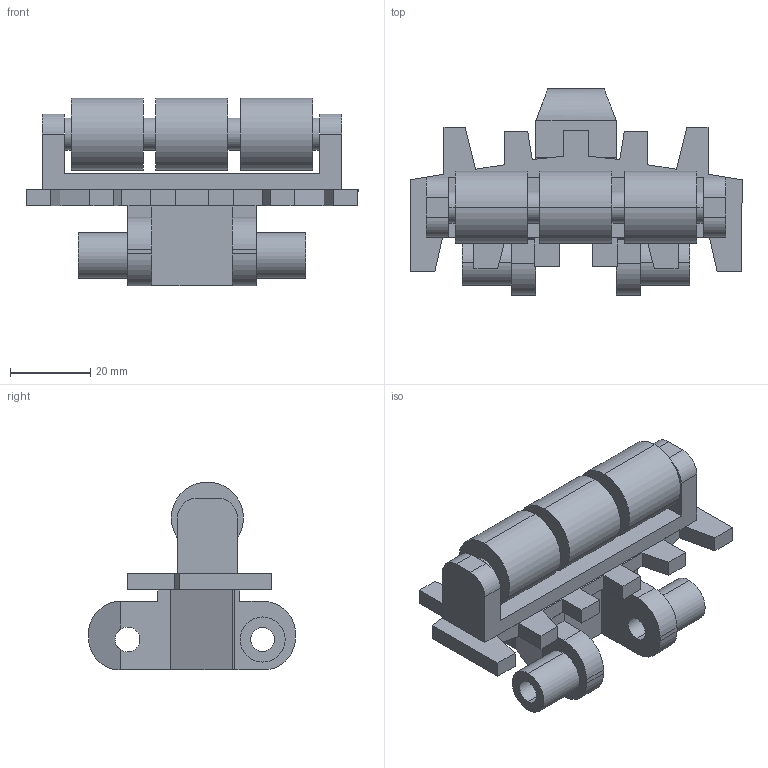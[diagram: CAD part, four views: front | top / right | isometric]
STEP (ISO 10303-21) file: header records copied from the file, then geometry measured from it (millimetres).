
FILE_DESCRIPTION (( 'STEP AP214' ), '1' );
FILE_NAME ('FMRC-5A.STEP', '2011-04-14T11:08:09', ( '.' ), ( '' ), 'SwSTEP 2.0', 'SolidWorks 2010', '' );
FILE_SCHEMA (( 'AUTOMOTIVE_DESIGN' ));
Length unit declared in the file: millimetre
Products named in the file (1): FMRC-5A
Bounding box: 83 x 51.7 x 47 mm (x, y, z)
Volume: 45501.1 mm3; surface area: 18295.3 mm2
Topology: 2 solids, 2 shells, 138 faces, 362 edges, 236 vertices
Faces by surface type: plane 98, cylinder 40
Entity records: 4271 total; most frequent: CARTESIAN_POINT 755, ORIENTED_EDGE 724, DIRECTION 712, EDGE_CURVE 362, LINE 278, VECTOR 278, VERTEX_POINT 236, AXIS2_PLACEMENT_3D 217
